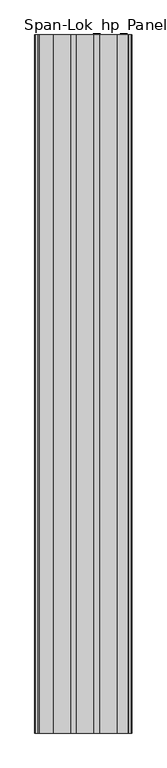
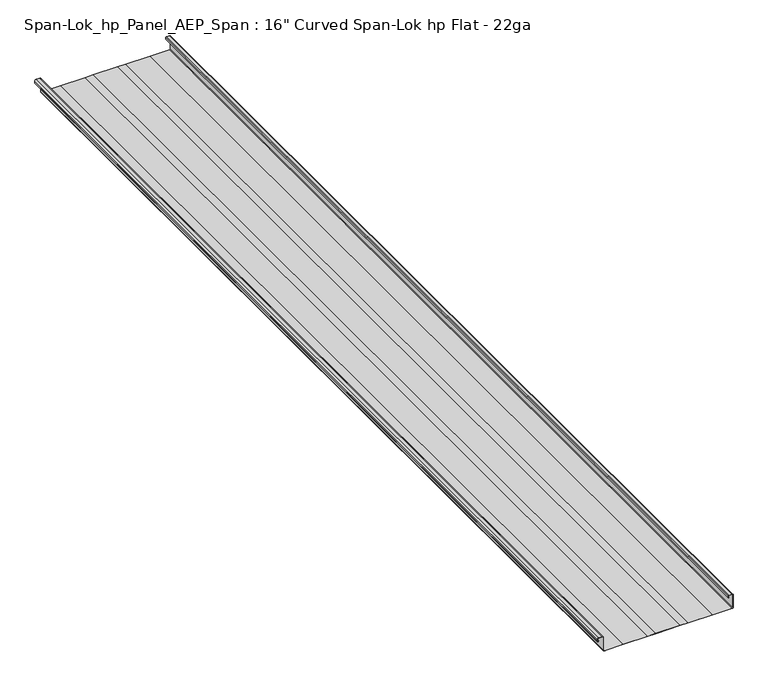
"""IFC4 building model written with IfcOpenShell, lengths in millimetres: proxy geometry."""

from ifc_helpers import new_model, si_unit, point, frame, frame_2d, origin, place, context, project, spatial, polyline, circle_curve, trimmed, segment, composite_curve, outline, extrude, source, transform, mapped, element, save


def proxy_ca0f3488(model_context):
    return source(origin(), model_context, "Body", "SweptSolid", [
        extrude(outline(composite_curve([segment(polyline([(44.3801219, 188.083706), (38.8842004, 188.083706), (38.8842004, 188.8641786), (44.3801219, 188.830466)]), True, "CONTINUOUS"), segment(trimmed(circle_curve(frame_2d((44.3801219, 190.6935543)), 1.8630883), [point((44.3801219, 188.830466))], [point((46.2432103, 190.6935543))], True, "CARTESIAN"), True, "CONTINUOUS"), segment(polyline([(46.2432103, 190.6935543), (46.2432103, 200.5900231)]), True, "CONTINUOUS"), segment(trimmed(circle_curve(frame_2d((44.3801219, 200.5900231)), 1.8630883), [point((46.2432103, 200.5900231))], [point((44.3801219, 202.4531114))], True, "CARTESIAN"), True, "CONTINUOUS"), segment(polyline([(44.3801219, 202.4531114), (2.6098483, 202.4531114)]), True, "CONTINUOUS"), segment(trimmed(circle_curve(frame_2d((2.6098483, 200.5900231)), 1.8630883), [point((2.6098483, 202.4531114))], [point((0.74676, 200.5900231))], True, "CARTESIAN"), True, "CONTINUOUS"), segment(polyline([(0.74676, 200.5900231), (0.74676, 139.6999116), (0.74676, 63.4998312), (0.74676, 38.0998473), (0.74676, -38.1001045), (0.74676, -63.5000884), (0.74676, -139.7001688), (0.74676, -200.5902802)]), True, "CONTINUOUS"), segment(trimmed(circle_curve(frame_2d((2.6098483, -200.5902802)), 1.8630883), [point((0.74676, -200.5902802))], [point((2.6098483, -202.4533686))], True, "CARTESIAN"), True, "CONTINUOUS"), segment(polyline([(2.6098483, -202.4533686), (44.8373216, -202.4533686)]), True, "CONTINUOUS"), segment(trimmed(circle_curve(frame_2d((44.8373216, -206.3814766)), 3.928108), [point((44.8373216, -202.4533686))], [point((48.7654296, -206.3814766))], False, "CARTESIAN"), True, "CONTINUOUS"), segment(polyline([(48.7654296, -206.3814766), (48.7654296, -217.1923447)]), True, "CONTINUOUS"), segment(trimmed(circle_curve(frame_2d((44.8373216, -217.1923447)), 3.928108), [point((48.7654296, -217.1923447))], [point((44.8373216, -221.1204527))], False, "CARTESIAN"), True, "CONTINUOUS"), segment(polyline([(44.8373216, -221.1204527), (37.8697862, -221.1204527)]), True, "CONTINUOUS"), segment(trimmed(circle_curve(frame_2d((37.8697862, -219.555754)), 1.5646987), [point((37.8697862, -221.1204527))], [point((36.7705435, -218.4422247))], False, "CARTESIAN"), True, "CONTINUOUS"), segment(polyline([(36.7705435, -218.4422247), (38.4174757, -216.8164226), (38.9662306, -217.3723095), (37.2951624, -218.9736619)]), True, "CONTINUOUS"), segment(trimmed(circle_curve(frame_2d((37.8697862, -219.555754)), 0.8179387), [point((37.2951624, -218.9736619))], [point((37.8697862, -220.3736927))], True, "CARTESIAN"), True, "CONTINUOUS"), segment(polyline([(37.8697862, -220.3736927), (44.8373216, -220.3736927)]), True, "CONTINUOUS"), segment(trimmed(circle_curve(frame_2d((44.8373216, -217.1923447)), 3.181348), [point((44.8373216, -220.3736927))], [point((48.0186696, -217.1923447))], True, "CARTESIAN"), True, "CONTINUOUS"), segment(polyline([(48.0186696, -217.1923447), (48.0186696, -206.3814766)]), True, "CONTINUOUS"), segment(trimmed(circle_curve(frame_2d((44.8373216, -206.3814766)), 3.181348), [point((48.0186696, -206.3814766))], [point((44.8373216, -203.2001286))], True, "CARTESIAN"), True, "CONTINUOUS"), segment(polyline([(44.8373216, -203.2001286), (2.6098483, -203.2001286)]), True, "CONTINUOUS"), segment(trimmed(circle_curve(frame_2d((2.6098483, -200.5902802)), 2.6098483), [point((2.6098483, -203.2001286))], [point((0.0, -200.5902802))], False, "CARTESIAN"), True, "CONTINUOUS"), segment(polyline([(0.0, -200.5902802), (0.0, -139.7001688), (0.0, -63.5000884), (0.0, -38.1001045), (0.0, 38.0998473), (0.0, 63.4998312), (0.0, 139.6999116), (0.0, 200.5900231)]), True, "CONTINUOUS"), segment(trimmed(circle_curve(frame_2d((2.6098483, 200.5900231)), 2.6098483), [point((0.0, 200.5900231))], [point((2.6098483, 203.1998714))], False, "CARTESIAN"), True, "CONTINUOUS"), segment(polyline([(2.6098483, 203.1998714), (44.3801219, 203.1998714)]), True, "CONTINUOUS"), segment(trimmed(circle_curve(frame_2d((44.3801219, 200.5900231)), 2.6098483), [point((44.3801219, 203.1998714))], [point((46.9899703, 200.5900231))], False, "CARTESIAN"), True, "CONTINUOUS"), segment(polyline([(46.9899703, 200.5900231), (46.9899703, 190.6935543)]), True, "CONTINUOUS"), segment(trimmed(circle_curve(frame_2d((44.3801219, 190.6935543)), 2.6098483), [point((46.9899703, 190.6935543))], [point((44.3801219, 188.083706))], False, "CARTESIAN"), True, "CONTINUOUS")], self_intersect=False)), frame((0.0, -3048.0, 0.0), z_axis=(0.0, 1.0, 0.0), x_axis=(0.0, 0.0, 1.0)), (0.0, 0.0, 1.0), 3048.0),
    ])


if __name__ == "__main__":
    model = new_model("IFC4")
    model_context = context("Model", 3, world=origin())
    ifc_project = project(units=[si_unit("LENGTHUNIT", "METRE", prefix="MILLI")], contexts=[model_context])
    site = spatial("IfcSite", under=ifc_project)
    building = spatial("IfcBuilding", under=site)
    placement = place(None, origin())
    proxy_shape = proxy_ca0f3488(model_context)
    element("IfcBuildingElementProxy", 1, Name="Span-Lok_hp_Panel_AEP_Span : 16\" Curved Span-Lok hp Flat - 22ga", ObjectType="Span-Lok_hp_Panel_AEP_Span : 16\" Curved Span-Lok hp Flat - 22ga", at=placement, inside=building, context=model_context, shape_type="MappedRepresentation", body=[
        mapped(proxy_shape, transform((0.0, 0.0, 0.0), x_axis=(1.0, 0.0, 0.0), y_axis=(0.0, 1.0, 0.0), z_axis=(0.0, 0.0, 1.0))),
    ])
    save(model, "model.ifc")
